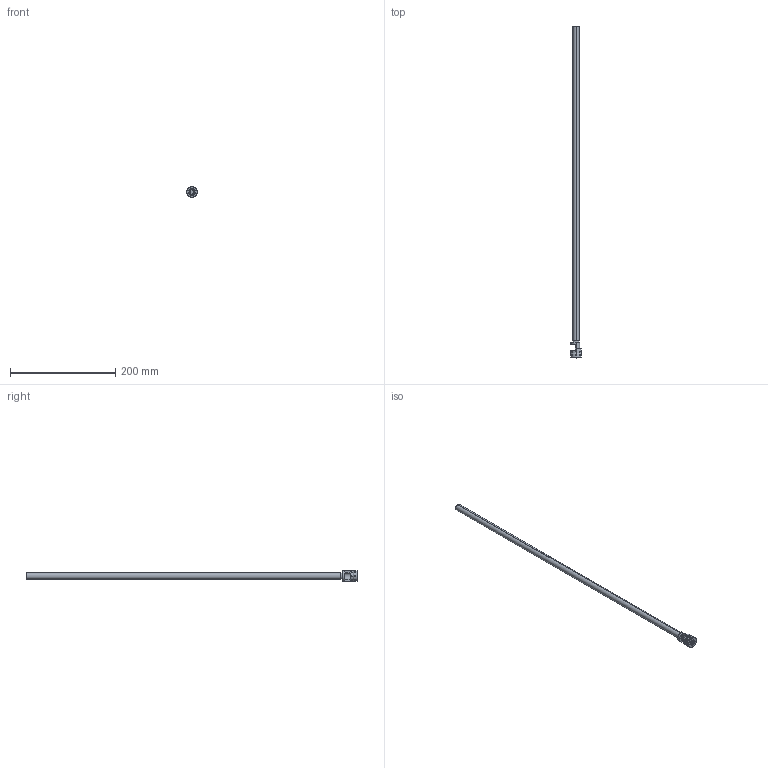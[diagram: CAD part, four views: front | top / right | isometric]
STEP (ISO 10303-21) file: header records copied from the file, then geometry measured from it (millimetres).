
FILE_DESCRIPTION (( 'STEP AP203' ), '1' );
FILE_NAME ('RF-20Fx600.STEP', '2015-11-24T13:37:19', ( 'Balzi' ), ( '' ), 'SwSTEP 2.0', 'SolidWorks 2015', '' );
FILE_SCHEMA (( 'CONFIG_CONTROL_DESIGN' ));
Length unit declared in the file: millimetre
Products named in the file (1): RF-20Fx600
Bounding box: 21.5 x 629.5 x 21.5 mm (x, y, z)
Volume: 16348.3 mm3; surface area: 46893.1 mm2
Topology: 1 solids, 1 shells, 74 faces, 170 edges, 106 vertices
Faces by surface type: cylinder 26, plane 26, cone 14, torus 8
Entity records: 2194 total; most frequent: DIRECTION 401, CARTESIAN_POINT 370, ORIENTED_EDGE 340, EDGE_CURVE 170, AXIS2_PLACEMENT_3D 161, VERTEX_POINT 106, CIRCLE 86, EDGE_LOOP 84
